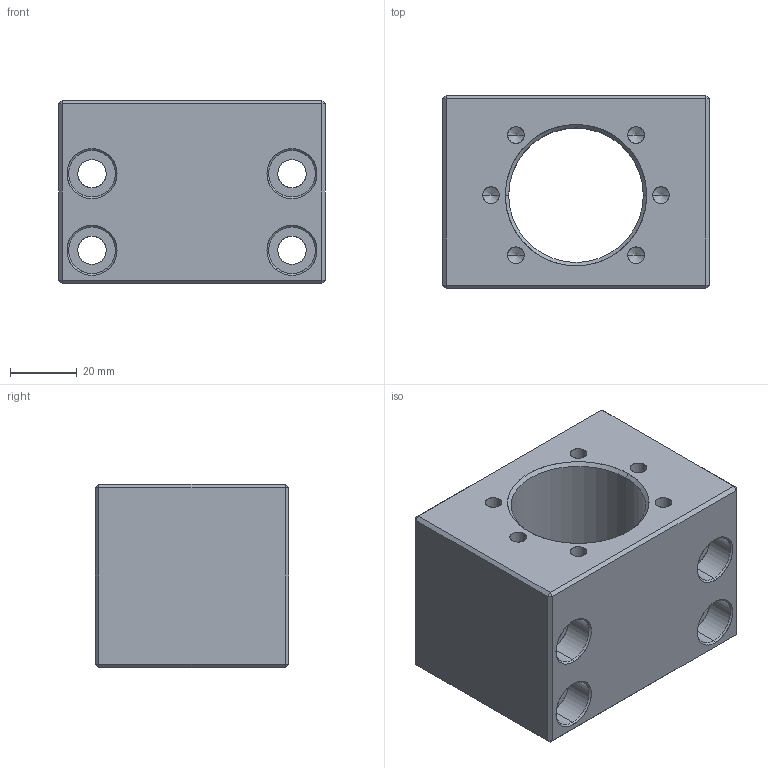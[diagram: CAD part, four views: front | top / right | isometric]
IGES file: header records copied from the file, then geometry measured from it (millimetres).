
Start section: SolidWorks IGES file using analytic representation for surfaces
Bounding box: 80 x 58 x 55 mm (x, y, z)
Surface area: 36021.9 mm2 (no closed solid volume)
Topology: 0 solids, 0 shells, 84 faces, 1144 edges, 1132 vertices
Faces by surface type: revolution 54, bspline 30
